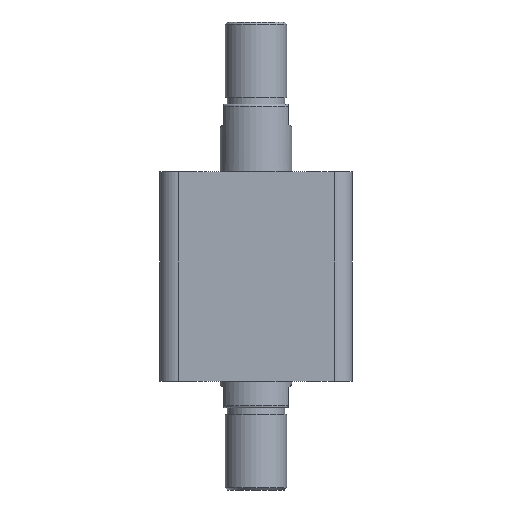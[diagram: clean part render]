
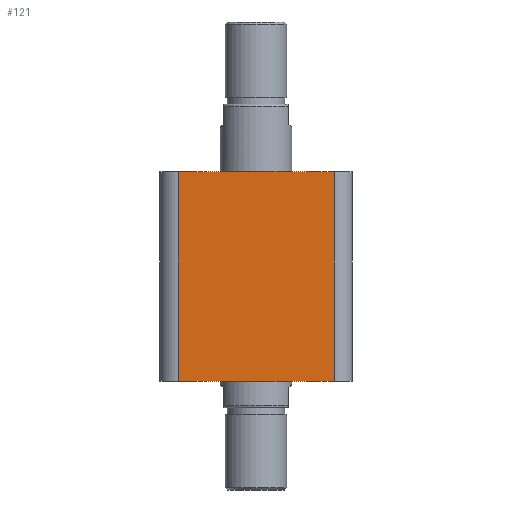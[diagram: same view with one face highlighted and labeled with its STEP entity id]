
A CAD part, front view. The second image highlights one B-rep face of the part: STEP entity #121.
In plain terms, the highlighted planar face has unit normal (0, -1, 0).
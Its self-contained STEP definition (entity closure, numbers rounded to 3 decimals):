
#121 = ADVANCED_FACE ( 'NONE', ( #2666 ), #1680, .F. ) ;
#307 = CARTESIAN_POINT ( 'NONE',  ( -38., -47., 0. ) ) ;
#308 = CARTESIAN_POINT ( 'NONE',  ( 38., -47., 0. ) ) ;
#315 = CARTESIAN_POINT ( 'NONE',  ( 38., -47., 102. ) ) ;
#325 = CARTESIAN_POINT ( 'NONE',  ( -38., -47., 102. ) ) ;
#380 = CARTESIAN_POINT ( 'NONE',  ( -47., -47., 0. ) ) ;
#390 = CARTESIAN_POINT ( 'NONE',  ( -47., -47., 102. ) ) ;
#391 = DIRECTION ( 'NONE',  ( 1., 0., 0. ) ) ;
#392 = CARTESIAN_POINT ( 'NONE',  ( -38., -47., 102. ) ) ;
#393 = DIRECTION ( 'NONE',  ( 0., 0., -1. ) ) ;
#394 = DIRECTION ( 'NONE',  ( 1., 0., 0. ) ) ;
#395 = CARTESIAN_POINT ( 'NONE',  ( 38., -47., 102. ) ) ;
#396 = DIRECTION ( 'NONE',  ( 0., 0., 1. ) ) ;
#754 = AXIS2_PLACEMENT_3D ( 'NONE', #1678, #1682, #1683 ) ;
#1678 = CARTESIAN_POINT ( 'NONE',  ( -47., -47., 102. ) ) ;
#1680 = PLANE ( 'NONE',  #754 ) ;
#1682 = DIRECTION ( 'NONE',  ( 0., 1., 0. ) ) ;
#1683 = DIRECTION ( 'NONE',  ( 0., 0., 1. ) ) ;
#2104 = ORIENTED_EDGE ( 'NONE', *, *, #3396, .T. ) ;
#2105 = ORIENTED_EDGE ( 'NONE', *, *, #3395, .T. ) ;
#2106 = ORIENTED_EDGE ( 'NONE', *, *, #3394, .T. ) ;
#2107 = ORIENTED_EDGE ( 'NONE', *, *, #3393, .F. ) ;
#2153 = EDGE_LOOP ( 'NONE', ( #2107, #2106, #2105, #2104 ) ) ;
#2666 = FACE_OUTER_BOUND ( 'NONE', #2153, .T. ) ;
#3021 = LINE ( 'NONE', #380, #3040 ) ;
#3033 = LINE ( 'NONE', #390, #3036 ) ;
#3035 = LINE ( 'NONE', #392, #3038 ) ;
#3036 = VECTOR ( 'NONE', #391, 1000. ) ;
#3038 = VECTOR ( 'NONE', #393, 1000. ) ;
#3039 = LINE ( 'NONE', #395, #3042 ) ;
#3040 = VECTOR ( 'NONE', #394, 1000. ) ;
#3042 = VECTOR ( 'NONE', #396, 1000. ) ;
#3119 = VERTEX_POINT ( 'NONE', #307 ) ;
#3120 = VERTEX_POINT ( 'NONE', #308 ) ;
#3227 = VERTEX_POINT ( 'NONE', #315 ) ;
#3240 = VERTEX_POINT ( 'NONE', #325 ) ;
#3393 = EDGE_CURVE ( 'NONE', #3240, #3227, #3033, .T. ) ;
#3394 = EDGE_CURVE ( 'NONE', #3240, #3119, #3035, .T. ) ;
#3395 = EDGE_CURVE ( 'NONE', #3119, #3120, #3021, .T. ) ;
#3396 = EDGE_CURVE ( 'NONE', #3120, #3227, #3039, .T. ) ;
